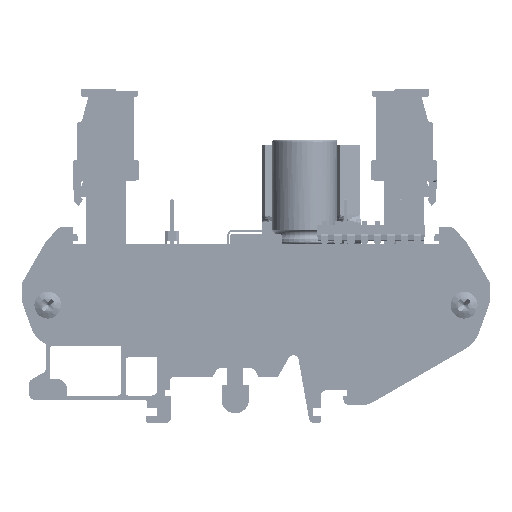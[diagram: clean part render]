
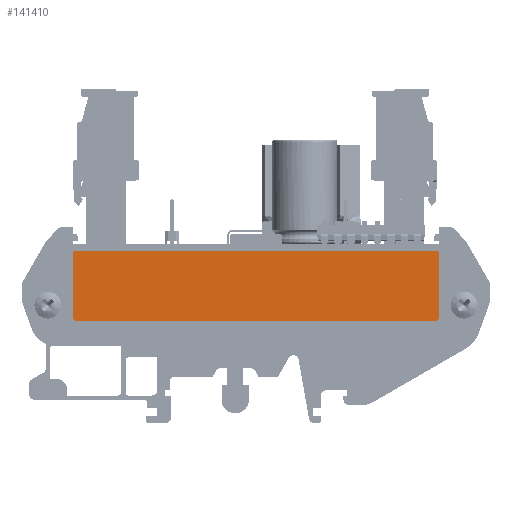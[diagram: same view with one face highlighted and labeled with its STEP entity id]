
A CAD part, left-side view. The second image highlights one B-rep face of the part: STEP entity #141410.
In plain terms, the highlighted planar face has unit normal (-1, 0, 0).
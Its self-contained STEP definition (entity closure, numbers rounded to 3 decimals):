
#5995=CIRCLE('',#151774,0.5);
#6114=CIRCLE('',#152024,0.5);
#6116=CIRCLE('',#152030,0.5);
#6130=CIRCLE('',#152083,0.5);
#13099=FACE_OUTER_BOUND('',#20984,.T.);
#20984=EDGE_LOOP('',(#118722,#118723,#118724,#118725,#118726,#118727,#118728,
#118729));
#35316=LINE('',#230515,#50400);
#35690=LINE('',#231514,#50774);
#35693=LINE('',#231522,#50777);
#35764=LINE('',#231694,#50848);
#50400=VECTOR('',#186056,1000.);
#50774=VECTOR('',#186968,1000.);
#50777=VECTOR('',#186973,1000.);
#50848=VECTOR('',#187160,1000.);
#63064=VERTEX_POINT('',#230512);
#63065=VERTEX_POINT('',#230514);
#63081=VERTEX_POINT('',#230565);
#63419=VERTEX_POINT('',#231505);
#63421=VERTEX_POINT('',#231512);
#63424=VERTEX_POINT('',#231519);
#63425=VERTEX_POINT('',#231521);
#63468=VERTEX_POINT('',#231689);
#81509=EDGE_CURVE('',#63064,#63065,#35316,.T.);
#81535=EDGE_CURVE('',#63065,#63081,#5995,.T.);
#82007=EDGE_CURVE('',#63419,#63064,#6114,.T.);
#82010=EDGE_CURVE('',#63421,#63419,#35690,.T.);
#82013=EDGE_CURVE('',#63425,#63424,#35693,.T.);
#82016=EDGE_CURVE('',#63425,#63421,#6116,.T.);
#82099=EDGE_CURVE('',#63468,#63424,#6130,.T.);
#82100=EDGE_CURVE('',#63081,#63468,#35764,.T.);
#118722=ORIENTED_EDGE('',*,*,#82100,.F.);
#118723=ORIENTED_EDGE('',*,*,#81535,.F.);
#118724=ORIENTED_EDGE('',*,*,#81509,.F.);
#118725=ORIENTED_EDGE('',*,*,#82007,.F.);
#118726=ORIENTED_EDGE('',*,*,#82010,.F.);
#118727=ORIENTED_EDGE('',*,*,#82016,.F.);
#118728=ORIENTED_EDGE('',*,*,#82013,.T.);
#118729=ORIENTED_EDGE('',*,*,#82099,.F.);
#127267=PLANE('',#152085);
#141410=ADVANCED_FACE('',(#13099),#127267,.F.);
#151774=AXIS2_PLACEMENT_3D('',#230566,#186107,#186108);
#152024=AXIS2_PLACEMENT_3D('',#231507,#186960,#186961);
#152030=AXIS2_PLACEMENT_3D('',#231526,#186979,#186980);
#152083=AXIS2_PLACEMENT_3D('',#231691,#187154,#187155);
#152085=AXIS2_PLACEMENT_3D('',#231693,#187158,#187159);
#186056=DIRECTION('',(0.,0.,1.));
#186107=DIRECTION('center_axis',(1.,0.,0.));
#186108=DIRECTION('ref_axis',(0.,-1.,0.));
#186960=DIRECTION('center_axis',(1.,0.,0.));
#186961=DIRECTION('ref_axis',(0.,-1.,0.));
#186968=DIRECTION('',(0.,1.,0.));
#186973=DIRECTION('',(0.,0.,1.));
#186979=DIRECTION('center_axis',(1.,0.,0.));
#186980=DIRECTION('ref_axis',(0.,-1.,0.));
#187154=DIRECTION('center_axis',(1.,0.,0.));
#187155=DIRECTION('ref_axis',(0.,-1.,0.));
#187158=DIRECTION('center_axis',(1.,0.,0.));
#187159=DIRECTION('ref_axis',(0.,1.,0.));
#187160=DIRECTION('',(0.,-1.,0.));
#230512=CARTESIAN_POINT('',(-1.3,71.,-14.2));
#230514=CARTESIAN_POINT('',(-1.3,71.,-1.8));
#230515=CARTESIAN_POINT('',(-1.3,71.,-14.2));
#230565=CARTESIAN_POINT('',(-1.3,70.5,-1.3));
#230566=CARTESIAN_POINT('Origin',(-1.3,70.5,-1.8));
#231505=CARTESIAN_POINT('',(-1.3,70.5,-14.7));
#231507=CARTESIAN_POINT('Origin',(-1.3,70.5,-14.2));
#231512=CARTESIAN_POINT('',(-1.3,1.5,-14.7));
#231514=CARTESIAN_POINT('',(-1.3,1.5,-14.7));
#231519=CARTESIAN_POINT('',(-1.3,1.,-1.8));
#231521=CARTESIAN_POINT('',(-1.3,1.,-14.2));
#231522=CARTESIAN_POINT('',(-1.3,1.,-14.2));
#231526=CARTESIAN_POINT('Origin',(-1.3,1.5,-14.2));
#231689=CARTESIAN_POINT('',(-1.3,1.5,-1.3));
#231691=CARTESIAN_POINT('Origin',(-1.3,1.5,-1.8));
#231693=CARTESIAN_POINT('Origin',(-1.3,56.,-33.65));
#231694=CARTESIAN_POINT('',(-1.3,70.5,-1.3));
